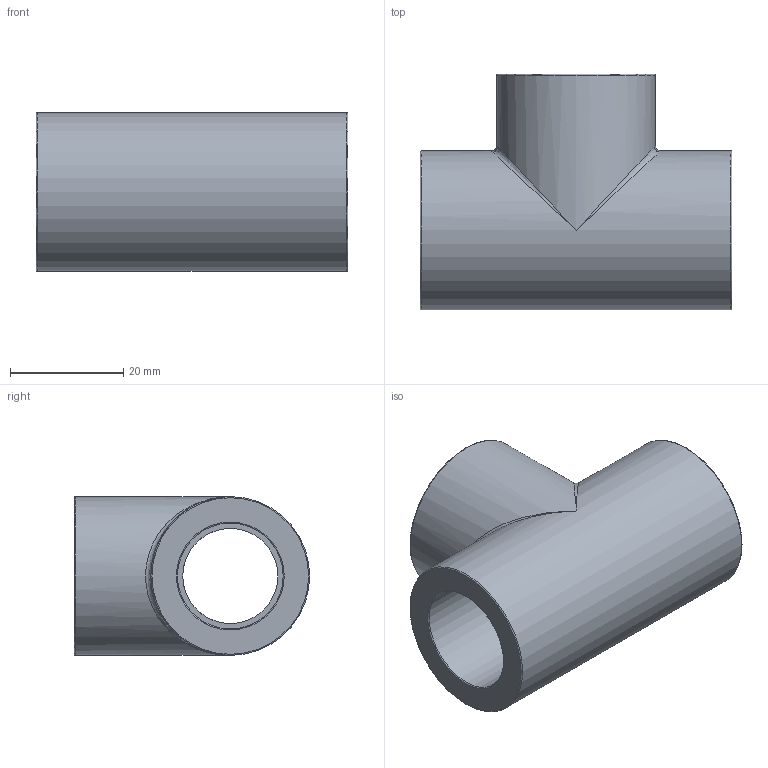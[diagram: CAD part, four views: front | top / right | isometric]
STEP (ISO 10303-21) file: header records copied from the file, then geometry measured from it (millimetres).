
FILE_DESCRIPTION(/* description */ ('PLASSON THREADED TEE PVC 1/2"'),/* implementation_level */ '2;1');
FILE_NAME(/* name */ 'C:\Dropbox\KIMPROJECTS-Inventor\99-16-3568-Processing\PVC Catalog 2017\050401\050401005.ipt.stp',/* time_stamp */ '2017-12-07T15:54:38+02:00',/* author */ ('KIM'),/* organization */ (''),/* preprocessor_version */ 'ST-DEVELOPER v15.6',/* originating_system */ 'Autodesk Inventor 2015',/* authorisation */ '');
FILE_SCHEMA (('AUTOMOTIVE_DESIGN { 1 0 10303 214 3 1 1 }'));
Length unit declared in the file: millimetre
Products named in the file (1): 050401005
Bounding box: 55 x 41.5 x 28 mm (x, y, z)
Volume: 24197.6 mm3; surface area: 10911.9 mm2
Topology: 1 solids, 1 shells, 20 faces, 48 edges, 28 vertices
Faces by surface type: cylinder 7, plane 6, torus 5, bspline 2
Full cylindrical faces by diameter (mm): 16.768 x2, 18.631 x3, 28 x2
Entity records: 550 total; most frequent: CARTESIAN_POINT 163, DIRECTION 84, ORIENTED_EDGE 46, AXIS2_PLACEMENT_3D 42, EDGE_LOOP 40, EDGE_CURVE 23, VERTEX_POINT 21, FACE_BOUND 20
